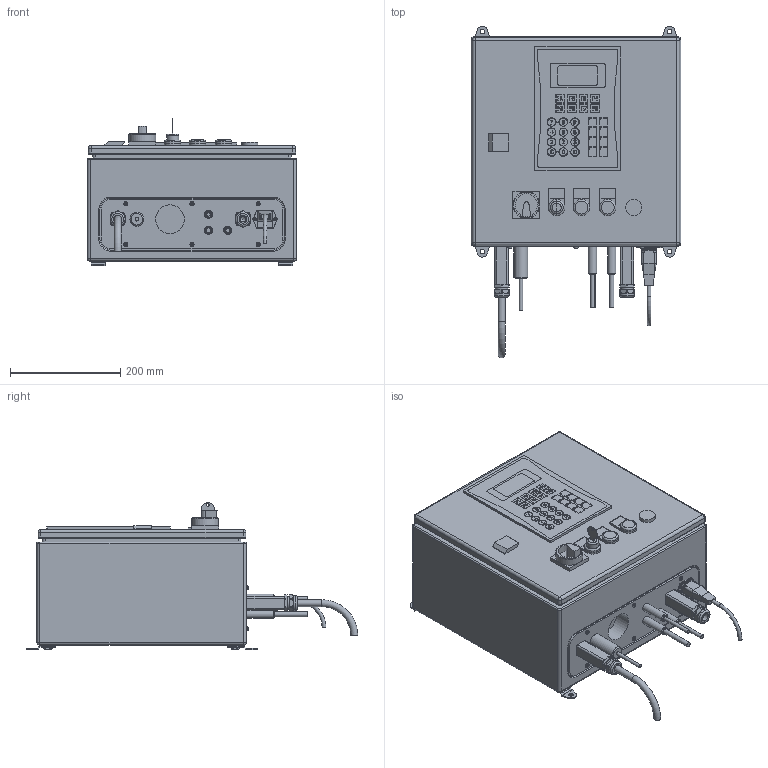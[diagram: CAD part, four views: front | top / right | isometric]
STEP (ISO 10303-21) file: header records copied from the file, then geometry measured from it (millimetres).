
FILE_DESCRIPTION((''),'2;1');
FILE_NAME('H:\Datenbank\CAD-Daten\Steuerungen\MCS 4100.stp','2014-01-17T08:23:42',('scheifl'),(''),'Autodesk Inventor 2011','Autodesk Inventor 2011','');
FILE_SCHEMA(('AUTOMOTIVE_DESIGN { 1 0 10303 214 1 1 1 1 }'));
Length unit declared in the file: millimetre
Products named in the file (1): scs 4010-js mcs 4100
Bounding box: 380 x 601.55 x 266.77 mm (x, y, z)
Volume: 28916498.4 mm3; surface area: 836669.3 mm2
Topology: 1 solids, 18 shells, 849 faces, 2532 edges, 1864 vertices
Faces by surface type: plane 496, cylinder 239, cone 70, torus 32, sphere 12
Full cylindrical faces by diameter (mm): 2.9 x2, 5 x1, 6.5 x2, 6.647 x4, 7 x1, 7.323 x4, 7.5 x1, 7.6 x6, 8.1 x8, 9 x1, 10 x3, 11.4 x4, 12.5 x1, 14 x2, 15 x3, 16 x2, 22 x1, 22.5 x6, 23.5 x2, 25 x1, 27 x2, 28 x1, 29.5 x4, 38 x2, 46 x1, 49 x1, 52 x1
Entity records: 29927 total; most frequent: CARTESIAN_POINT 6308, ORIENTED_EDGE 4752, DIRECTION 4503, EDGE_CURVE 2376, VERTEX_POINT 1829, AXIS2_PLACEMENT_3D 1596, VECTOR 1311, LINE 1311
